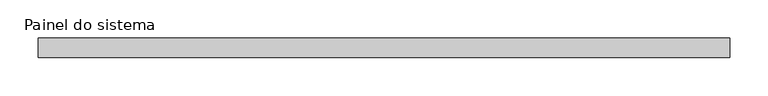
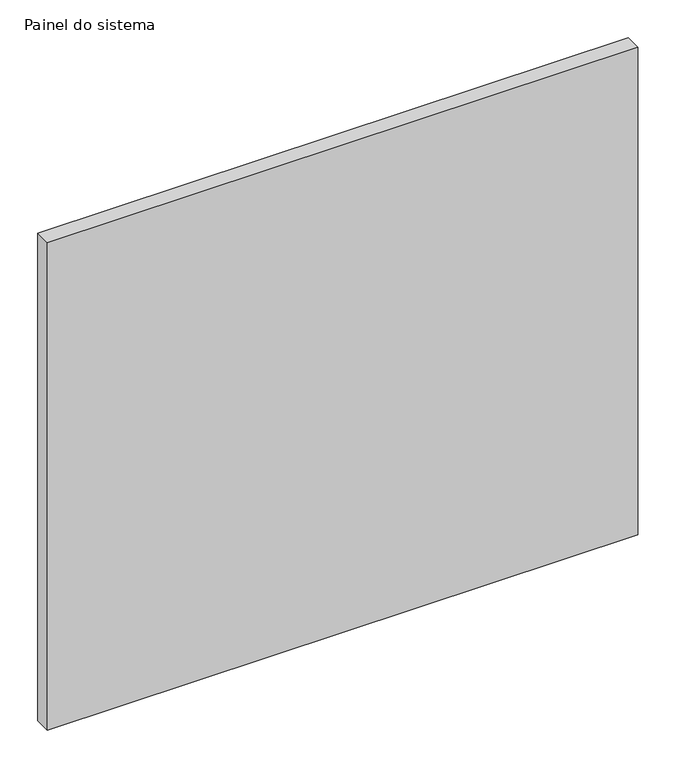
"""IFC4 building model written with IfcOpenShell, lengths in millimetres: plate geometry, Painel do sistema : Envidraçado."""

import ifcopenshell
import ifcopenshell.guid

model = None  # the IFC model being written
_history = None  # IfcOwnerHistory: only IFC2X3 demands one
_inside = {}  # id of a spatial element -> (the spatial element, [elements in it])
_under = {}  # id of a project, library or spatial element -> (it, [spatial elements below it])
_declared = {}  # id of a project -> (the project, [libraries it declares])
_typed = {}  # id of a type object -> (the type object, [elements of that type])
_made_of = {}  # id of a material, layer set ... -> (it, [elements and type objects made of it])


def new_model(schema):
    """Start an empty IFC model of exactly this schema.

    Asked for "IFC4X3", IfcOpenShell would pick the latest addendum, in which some entities
    have other attributes; the version numbers below select the first issue.
    IFC2X3 requires an IfcOwnerHistory on every rooted entity: one is made here for all.
    """
    global model, _history
    if schema == "IFC4X3":
        model = ifcopenshell.file(schema_version=(4, 3, 0, 0))
    else:
        model = ifcopenshell.file(schema=schema)
    _inside.clear()
    _under.clear()
    _declared.clear()
    _typed.clear()
    _made_of.clear()
    _history = None
    if model.schema == "IFC2X3":
        org = make("IfcOrganization", Name="unknown")
        user = make(
            "IfcPersonAndOrganization",
            ThePerson=make("IfcPerson", FamilyName="unknown"),
            TheOrganization=org,
        )
        app = make(
            "IfcApplication",
            ApplicationDeveloper=org,
            Version="unknown",
            ApplicationFullName="unknown",
            ApplicationIdentifier="unknown",
        )
        _history = make(
            "IfcOwnerHistory",
            OwningUser=user,
            OwningApplication=app,
            ChangeAction="ADDED",
            CreationDate=0,
        )
    return model


def make(cls, **values):
    """One entity of the class cls with the attributes given. An attribute that is None is left unset."""
    return model.create_entity(
        cls, **{name: value for name, value in values.items() if value is not None}
    )


def rooted(cls, **values):
    """An entity with a GlobalId (a new one), such as an element, a storey or a relation."""
    return make(cls, GlobalId=ifcopenshell.guid.new(), OwnerHistory=_history, **values)


def si_unit(unit_type, name, prefix=None):
    """IfcSIUnit, for example si_unit("LENGTHUNIT", "METRE", prefix="MILLI")."""
    return make("IfcSIUnit", UnitType=unit_type, Prefix=prefix, Name=name)


def assignment(units):
    """IfcUnitAssignment: the units of a project."""
    return None if units is None else make("IfcUnitAssignment", Units=units)


def point(xyz):
    """IfcCartesianPoint."""
    return None if xyz is None else make("IfcCartesianPoint", Coordinates=xyz)


def direction(xyz):
    """IfcDirection."""
    return None if xyz is None else make("IfcDirection", DirectionRatios=xyz)


def frame(location, z_axis=None, x_axis=None):
    """IfcAxis2Placement3D, a coordinate frame: its origin and axes. An axis left out is left unset."""
    return make(
        "IfcAxis2Placement3D",
        Location=point(location),
        Axis=direction(z_axis),
        RefDirection=direction(x_axis),
    )


def origin():
    """The frame at (0, 0, 0) with its axes left unset."""
    return frame((0.0, 0.0, 0.0))


def origin_with_axes():
    """The frame at (0, 0, 0) with the z axis (0, 0, 1) and the x axis (1, 0, 0) written out."""
    return frame((0.0, 0.0, 0.0), z_axis=(0.0, 0.0, 1.0), x_axis=(1.0, 0.0, 0.0))


def place(relative_to, where):
    """IfcLocalPlacement: puts the frame where relative to a parent placement (None: the world)."""
    return make(
        "IfcLocalPlacement", PlacementRelTo=relative_to, RelativePlacement=where
    )


def context(
    kind, dimensions, precision=None, world=None, true_north=None, identifier=None
):
    """IfcGeometricRepresentationContext, for example the 3D "Model" context."""
    return make(
        "IfcGeometricRepresentationContext",
        ContextIdentifier=identifier,
        ContextType=kind,
        CoordinateSpaceDimension=dimensions,
        Precision=precision,
        WorldCoordinateSystem=world,
        TrueNorth=true_north,
    )


def project(units=None, contexts=None):
    """IfcProject with its units and contexts."""
    return rooted(
        "IfcProject",
        Name="project",
        RepresentationContexts=contexts,
        UnitsInContext=assignment(units),
    )


def spatial(cls, under=None, at=None, **own):
    """A site, building, storey or space (cls), placed at a placement, below another one or the project."""
    s = rooted(cls, ObjectPlacement=at, **own)
    if under is not None:
        _under.setdefault(under.id(), (under, []))[1].append(s)
    return s


def polyline(points):
    """IfcPolyline through the points."""
    return make("IfcPolyline", Points=[point(p) for p in points])


def outline(outer, holes=None, kind="AREA"):
    """IfcArbitraryClosedProfileDef: a profile drawn as a closed curve; with holes, ...WithVoids."""
    if holes is None:
        return make("IfcArbitraryClosedProfileDef", ProfileType=kind, OuterCurve=outer)
    return make(
        "IfcArbitraryProfileDefWithVoids",
        ProfileType=kind,
        OuterCurve=outer,
        InnerCurves=holes,
    )


def extrude(swept, where, along, depth):
    """IfcExtrudedAreaSolid: the profile swept, set in the frame where, extruded along a direction by depth."""
    return make(
        "IfcExtrudedAreaSolid",
        SweptArea=swept,
        Position=where,
        ExtrudedDirection=direction(along),
        Depth=depth,
    )


def shape(context_of_items, identifier, shape_type, items):
    """IfcShapeRepresentation: the items that make up one representation, for example the "Body"."""
    return make(
        "IfcShapeRepresentation",
        ContextOfItems=context_of_items,
        RepresentationIdentifier=identifier,
        RepresentationType=shape_type,
        Items=items,
    )


def source(mapping_origin, context_of_items, identifier, shape_type, items):
    """IfcRepresentationMap: a shape defined once, which mapped items show again and again."""
    return make(
        "IfcRepresentationMap",
        MappingOrigin=mapping_origin,
        MappedRepresentation=shape(context_of_items, identifier, shape_type, items),
    )


def transform(
    local_origin,
    x_axis=None,
    y_axis=None,
    z_axis=None,
    scale=None,
    scale2=None,
    scale3=None,
    uniform=True,
):
    """IfcCartesianTransformationOperator3D, or its non-uniform kind. x_axis, y_axis, z_axis: its Axis1, 2, 3."""
    if uniform:
        return make(
            "IfcCartesianTransformationOperator3D",
            Axis1=direction(x_axis),
            Axis2=direction(y_axis),
            LocalOrigin=point(local_origin),
            Scale=scale,
            Axis3=direction(z_axis),
        )
    return make(
        "IfcCartesianTransformationOperator3DnonUniform",
        Axis1=direction(x_axis),
        Axis2=direction(y_axis),
        LocalOrigin=point(local_origin),
        Scale=scale,
        Axis3=direction(z_axis),
        Scale2=scale2,
        Scale3=scale3,
    )


def mapped(mapping_source, mapping_target):
    """IfcMappedItem: shows the shape of a source again, moved by a transform."""
    return make(
        "IfcMappedItem", MappingSource=mapping_source, MappingTarget=mapping_target
    )


def made_of(thing, what):
    """Note that an element or type object is made of a material, layer set ...; save() writes the relation."""
    if what is not None:
        _made_of.setdefault(what.id(), (what, []))[1].append(thing)
    return thing


def element(
    cls,
    number,
    at=None,
    inside=None,
    cuts=None,
    type_object=None,
    material=None,
    context=None,
    identifier="Body",
    shape_type=None,
    held_by="IfcProductDefinitionShape",
    body=None,
    shapes=None,
    **own,
):
    """One element of the class cls, such as IfcWall. Its Tag is "e" and its number.

    at: its placement. inside: the storey or other place that contains it. cuts: it is an
    opening in that element (IfcRelVoidsElement). A single representation is given by context,
    identifier, shape_type and body (its items); several are given by shapes. held_by: the class
    of the entity that holds the representations. save() writes the other relations.
    """
    e = rooted(cls, Tag="e%d" % number, ObjectPlacement=at, **own)
    if body is not None:
        shapes = [shape(context, identifier, shape_type, body)]
    if shapes is not None:
        e.Representation = make(held_by, Representations=shapes)
    if inside is not None:
        _inside.setdefault(inside.id(), (inside, []))[1].append(e)
    if cuts is not None:
        rooted(
            "IfcRelVoidsElement", RelatingBuildingElement=cuts, RelatedOpeningElement=e
        )
    if type_object is not None:
        _typed.setdefault(type_object.id(), (type_object, []))[1].append(e)
    return made_of(e, material)


def aggregate(whole, parts):
    """IfcRelAggregates: a whole, such as a stair, and the parts it consists of."""
    return rooted("IfcRelAggregates", RelatingObject=whole, RelatedObjects=parts)


def save(model, path):
    """Write the relations noted so far, then the file.

    IfcRelAggregates (storeys below a building ...), IfcRelContainedInSpatialStructure (elements
    in a storey), IfcRelDefinesByType, IfcRelAssociatesMaterial and IfcRelDeclares: one each for
    every whole, place, type object, material and project.
    """
    for whole, parts in _under.values():
        aggregate(whole, parts)
    for where, things in _inside.values():
        rooted(
            "IfcRelContainedInSpatialStructure",
            RelatedElements=things,
            RelatingStructure=where,
        )
    for kind, things in _typed.values():
        rooted("IfcRelDefinesByType", RelatedObjects=things, RelatingType=kind)
    for what, things in _made_of.values():
        rooted("IfcRelAssociatesMaterial", RelatedObjects=things, RelatingMaterial=what)
    for by, libraries in _declared.values():
        rooted("IfcRelDeclares", RelatingContext=by, RelatedDefinitions=libraries)
    model.write(path)


def painel_do_sistema_3e36a627(model_context):
    return source(origin(), model_context, "Body", "SweptSolid", [
        extrude(outline(polyline([(450.0, 24.5), (-450.0, 24.5), (-450.0, 49.5), (450.0, 49.5), (450.0, 24.5)])), origin_with_axes(), (0.0, 0.0, 1.0), 785.0),
    ])


if __name__ == "__main__":
    model = new_model("IFC4")
    model_context = context("Model", 3, world=origin())
    ifc_project = project(units=[si_unit("LENGTHUNIT", "METRE", prefix="MILLI")], contexts=[model_context])
    site = spatial("IfcSite", under=ifc_project)
    building = spatial("IfcBuilding", under=site)
    placement = place(None, origin())
    painel_do_sistema_shape = painel_do_sistema_3e36a627(model_context)
    element("IfcPlate", 1, ObjectType="Painel do sistema : Envidraçado", at=placement, inside=building, context=model_context, shape_type="MappedRepresentation", body=[
        mapped(painel_do_sistema_shape, transform((0.0, 0.0, 0.0), x_axis=(1.0, 0.0, 0.0), y_axis=(0.0, 1.0, 0.0), z_axis=(0.0, 0.0, 1.0))),
    ])
    save(model, "model.ifc")
